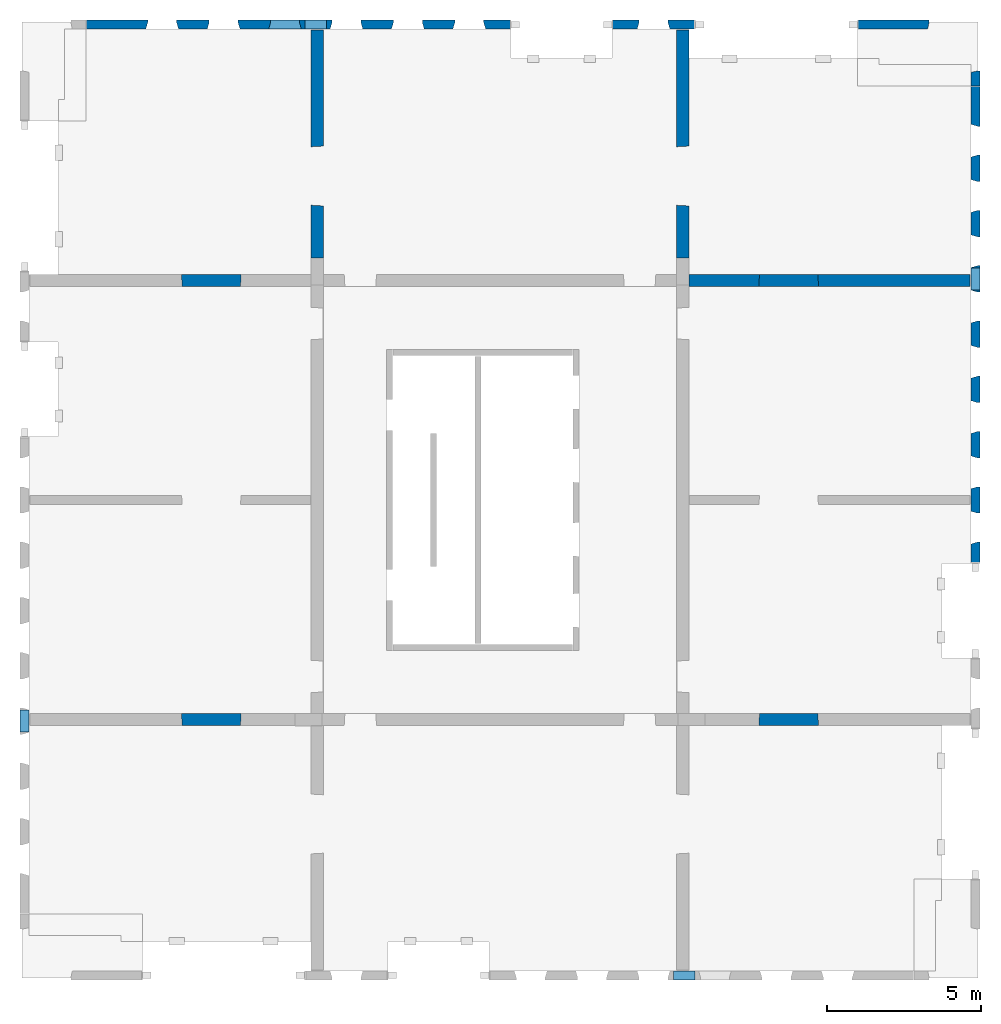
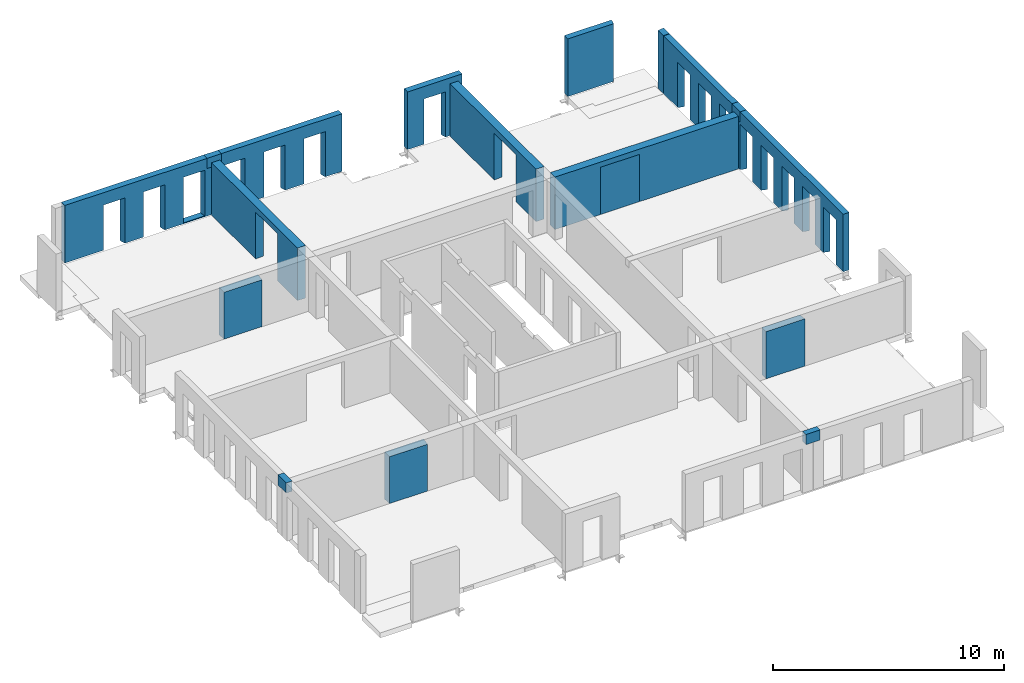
# One storey, part 4 of 4: 18 walls, 24 openings.
"""IFC2X3 building model written with IfcOpenShell, lengths in millimetres."""

from ifc_helpers import new_model, entity, si_unit, converted_unit, derived_unit, direction, frame, frame_2d, origin, place, context, subcontext, project, spatial, rectangle, extrude, faceted_brep, material, layer, layer_set, layer_usage, type_object, element, save


model = new_model("IFC2X3")

# Units and contexts
model_context = context("Model", 3, precision=0.01, world=origin(), true_north=direction((6.12303176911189e-17, 1.0)))
body_context = subcontext(model_context, "Body", "Model", "MODEL_VIEW")
ifc_project = project(units=[si_unit("LENGTHUNIT", "METRE", prefix="MILLI"), si_unit("AREAUNIT", "SQUARE_METRE"), si_unit("VOLUMEUNIT", "CUBIC_METRE"), converted_unit("PLANEANGLEUNIT", "DEGREE", entity("IfcRatioMeasure", 0.0174532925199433), si_unit("PLANEANGLEUNIT", "RADIAN"), dimensions=[0, 0, 0, 0, 0, 0, 0]), si_unit("MASSUNIT", "GRAM", prefix="KILO"), derived_unit("MASSDENSITYUNIT", [(si_unit("MASSUNIT", "GRAM", prefix="KILO"), 1), (si_unit("LENGTHUNIT", "METRE"), -3)]), si_unit("TIMEUNIT", "SECOND"), si_unit("FREQUENCYUNIT", "HERTZ"), si_unit("THERMODYNAMICTEMPERATUREUNIT", "DEGREE_CELSIUS"), derived_unit("THERMALTRANSMITTANCEUNIT", [(si_unit("MASSUNIT", "GRAM", prefix="KILO"), 1), (si_unit("THERMODYNAMICTEMPERATUREUNIT", "KELVIN"), -1), (si_unit("TIMEUNIT", "SECOND"), -3)]), derived_unit("VOLUMETRICFLOWRATEUNIT", [(si_unit("LENGTHUNIT", "METRE"), 3), (si_unit("TIMEUNIT", "SECOND"), -1)]), si_unit("ELECTRICCURRENTUNIT", "AMPERE"), si_unit("ELECTRICVOLTAGEUNIT", "VOLT"), si_unit("POWERUNIT", "WATT"), si_unit("FORCEUNIT", "NEWTON", prefix="KILO"), si_unit("ILLUMINANCEUNIT", "LUX"), si_unit("LUMINOUSFLUXUNIT", "LUMEN"), si_unit("LUMINOUSINTENSITYUNIT", "CANDELA"), derived_unit("USERDEFINED", [(si_unit("MASSUNIT", "GRAM", prefix="KILO"), -1), (si_unit("LENGTHUNIT", "METRE"), -2), (si_unit("TIMEUNIT", "SECOND"), 3), (si_unit("LUMINOUSFLUXUNIT", "LUMEN"), 1)]), derived_unit("LINEARVELOCITYUNIT", [(si_unit("LENGTHUNIT", "METRE"), 1), (si_unit("TIMEUNIT", "SECOND"), -1)]), si_unit("PRESSUREUNIT", "PASCAL"), derived_unit("USERDEFINED", [(si_unit("LENGTHUNIT", "METRE"), -2), (si_unit("MASSUNIT", "GRAM", prefix="KILO"), 1), (si_unit("TIMEUNIT", "SECOND"), -2)])], contexts=[model_context])

# Site, building, storey
site_placement = place(None, origin())
site = spatial("IfcSite", under=ifc_project, at=site_placement, Name="Default", CompositionType="ELEMENT")
building_placement = place(site_placement, origin())
building = spatial("IfcBuilding", under=site, at=building_placement, Name="niet gebruiken", CompositionType="ELEMENT")
storey_placement = place(building_placement, frame((0.0, 0.0, 70020.0)))
storey = spatial("IfcBuildingStorey", under=building, at=storey_placement, Name="22 tweeëntwintigste verdieping", CompositionType="ELEMENT", Elevation=70020.0000000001)

# Walls
ifc_material_1 = material(Name="NLRS_f2_beton ihwg")
ifc_layer_1 = layer(ifc_material_1, 300.0)
ifc_layer_set_1 = layer_set([ifc_layer_1], Name="Basic Wall:NLRS_21.21_WA_beton ihwg d=300_gen")
ifc_layer_usage_1 = layer_usage(ifc_layer_set_1, "AXIS2", "NEGATIVE", 150.0)
wall_type_1 = type_object("IfcWallType", Name="Basic Wall:NLRS_21.21_WA_beton ihwg d=300_gen", PredefinedType="STANDARD", material=ifc_layer_set_1)
wall_1_placement = place(storey_placement, frame((148105.0, 2020.0, 2455.0), z_axis=(0.0, 0.0, 1.0), x_axis=(-1.0, 0.0, 0.0)))
element("IfcWallStandardCase", 1, at=wall_1_placement, inside=storey, type_object=wall_type_1, material=ifc_layer_usage_1, Name="Basic Wall:NLRS_21.21_WA_beton ihwg d=300_gen", ObjectType="Basic Wall:NLRS_21.21_WA_beton ihwg d=300_gen", context=body_context, shape_type="SweptSolid", body=[
    extrude(rectangle(XDim=710.000000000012, YDim=300.0, at=frame_2d((355.000000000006, -1.4210854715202e-14), x_axis=(-1.0, 0.0))), origin(), (0.0, 0.0, 1.0), 535.0),
])
ifc_layer_usage_2 = layer_usage(ifc_layer_set_1, "AXIS2", "NEGATIVE", 150.0)
wall_2_placement = place(storey_placement, frame((135395.0, 32980.0, 2455.0)))
element("IfcWallStandardCase", 2, at=wall_2_placement, inside=storey, type_object=wall_type_1, material=ifc_layer_usage_2, Name="Basic Wall:NLRS_21.21_WA_beton ihwg d=300_gen", ObjectType="Basic Wall:NLRS_21.21_WA_beton ihwg d=300_gen", context=body_context, shape_type="SweptSolid", body=[
    extrude(rectangle(XDim=710.000000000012, YDim=300.000000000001, at=frame_2d((355.000000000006, 0.0), x_axis=(-1.0, 0.0))), origin(), (0.0, 0.0, 1.0), 535.0),
])
ifc_layer_usage_3 = layer_usage(ifc_layer_set_1, "AXIS2", "NEGATIVE", 150.0)
wall_3_placement = place(storey_placement, frame((157230.0, 25055.0, 2455.0), z_axis=(0.0, 0.0, 1.0), x_axis=(0.0, -1.0, 0.0)))
element("IfcWallStandardCase", 3, at=wall_3_placement, inside=storey, type_object=wall_type_1, material=ifc_layer_usage_3, Name="Basic Wall:NLRS_21.21_WA_beton ihwg d=300_gen", ObjectType="Basic Wall:NLRS_21.21_WA_beton ihwg d=300_gen", context=body_context, shape_type="SweptSolid", body=[
    extrude(rectangle(XDim=710.000000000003, YDim=300.000000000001, at=frame_2d((355.000000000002, 9.9475983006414e-13), x_axis=(-1.0, 0.0))), origin(), (0.0, 0.0, 1.0), 535.0),
])
ifc_layer_usage_4 = layer_usage(ifc_layer_set_1, "AXIS2", "NEGATIVE", 150.0)
wall_4_placement = place(storey_placement, frame((126270.0, 9945.0, 2455.0), z_axis=(0.0, 0.0, 1.0), x_axis=(0.0, 1.0, 0.0)))
element("IfcWallStandardCase", 4, at=wall_4_placement, inside=storey, type_object=wall_type_1, material=ifc_layer_usage_4, Name="Basic Wall:NLRS_21.21_WA_beton ihwg d=300_gen", ObjectType="Basic Wall:NLRS_21.21_WA_beton ihwg d=300_gen", context=body_context, shape_type="SweptSolid", body=[
    extrude(rectangle(XDim=710.000000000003, YDim=300.000000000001, at=frame_2d((355.000000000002, 0.0), x_axis=(-1.0, 0.0))), origin(), (0.0, 0.0, 1.0), 535.0),
])

# Wall, opening
ifc_material_2 = material(Name="NLRS_f2_beton prefab")
ifc_layer_2 = layer(ifc_material_2, 400.0)
ifc_layer_set_2 = layer_set([ifc_layer_2], Name="Basic Wall:NLRS_22.21_WA_beton prefab d=400_gen")
ifc_layer_usage_5 = layer_usage(ifc_layer_set_2, "AXIS2", "NEGATIVE", 200.0)
wall_type_2 = type_object("IfcWallType", Name="Basic Wall:NLRS_22.21_WA_beton prefab d=400_gen", PredefinedType="STANDARD", material=ifc_layer_set_2)
wall_5_placement = place(storey_placement, frame((157060.0, 24650.0, -70.0), z_axis=(0.0, 0.0, 1.0), x_axis=(-1.0, 0.0, 0.0)))
wall_5 = element("IfcWallStandardCase", 5, at=wall_5_placement, inside=storey, type_object=wall_type_2, material=ifc_layer_usage_5, Name="Basic Wall:NLRS_22.21_WA_beton prefab d=400_gen", ObjectType="Basic Wall:NLRS_22.21_WA_beton prefab d=400_gen", context=body_context, shape_type="SweptSolid", body=[
    extrude(rectangle(XDim=9160.00000000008, YDim=399.999999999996, at=frame_2d((4580.00000000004, -9.2370555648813e-13), x_axis=(-1.0, 0.0))), origin(), (0.0, 0.0, 1.0), 2770.00000000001),
])
opening_1_placement = place(wall_5_placement, frame((6884.0, 200.0, 0.0)))
element("IfcOpeningElement", 6, at=opening_1_placement, cuts=wall_5, Name="Basic Wall:NLRS_22.21_WA_beton prefab d=400_gen", ObjectType="Opening", context=body_context, shape_type="Brep", body=[
    faceted_brep([(-24.0, -400.0, 2470.0), (-1924.0, -400.0, 2470.0), (-1924.0, -400.0, 0.0), (-24.0, -400.0, 0.0), (0.0, 0.0, 2494.0), (0.0, 0.0, 0.0), (-1948.0, 0.0, 0.0), (-1948.0, 0.0, 2494.0)], [[[0, 1, 2, 3]], [[4, 5, 6, 7]], [[4, 7, 1, 0]], [[7, 6, 2, 1]], [[6, 5, 3, 2]], [[5, 4, 0, 3]]]),
])

ifc_layer_usage_6 = layer_usage(ifc_layer_set_2, "AXIS2", "NEGATIVE", 200.0)
wall_6_placement = place(storey_placement, frame((135800.0, 25380.0, -70.0), z_axis=(0.0, 0.0, 1.0), x_axis=(0.0, 1.0, 0.0)))
wall_6 = element("IfcWallStandardCase", 7, at=wall_6_placement, inside=storey, type_object=wall_type_2, material=ifc_layer_usage_6, Name="Basic Wall:NLRS_22.21_WA_beton prefab d=400_gen", ObjectType="Basic Wall:NLRS_22.21_WA_beton prefab d=400_gen", context=body_context, shape_type="SweptSolid", body=[
    extrude(rectangle(XDim=7430.00000000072, YDim=400.000000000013, at=frame_2d((3715.00000000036, -5.62749846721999e-12), x_axis=(-1.0, 0.0))), origin(), (0.0, 0.0, 1.0), 2770.00000000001),
])
opening_2_placement = place(wall_6_placement, frame((1696.0, 200.0, 0.0)))
element("IfcOpeningElement", 8, at=opening_2_placement, cuts=wall_6, Name="Basic Wall:NLRS_22.21_WA_beton prefab d=400_gen", ObjectType="Opening", context=body_context, shape_type="Brep", body=[
    faceted_brep([(1924.0, 0.0, 2470.0), (1924.0, 0.0, 0.0), (24.0, 0.0, 0.0), (24.0, 0.0, 2470.0), (1948.0, -400.0, 2494.0), (0.0, -400.0, 2494.0), (0.0, -400.0, 0.0), (1948.0, -400.0, 0.0)], [[[0, 1, 2, 3]], [[4, 5, 6, 7]], [[4, 0, 3, 5]], [[5, 3, 2, 6]], [[6, 2, 1, 7]], [[7, 1, 0, 4]]]),
])

ifc_layer_usage_7 = layer_usage(ifc_layer_set_2, "AXIS2", "NEGATIVE", 200.0)
wall_7_placement = place(storey_placement, frame((147700.0, 25380.0, -70.0), z_axis=(0.0, 0.0, 1.0), x_axis=(0.0, 1.0, 0.0)))
wall_7 = element("IfcWallStandardCase", 9, at=wall_7_placement, inside=storey, type_object=wall_type_2, material=ifc_layer_usage_7, Name="Basic Wall:NLRS_22.21_WA_beton prefab d=400_gen", ObjectType="Basic Wall:NLRS_22.21_WA_beton prefab d=400_gen", context=body_context, shape_type="SweptSolid", body=[
    extrude(rectangle(XDim=7429.99999999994, YDim=400.000000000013, at=frame_2d((3714.99999999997, 7.14805992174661e-12), x_axis=(-1.0, 0.0))), origin(), (0.0, 0.0, 1.0), 2770.00000000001),
])
opening_3_placement = place(wall_7_placement, frame((1696.0, 200.0, 0.0)))
element("IfcOpeningElement", 10, at=opening_3_placement, cuts=wall_7, Name="Basic Wall:NLRS_22.21_WA_beton prefab d=400_gen", ObjectType="Opening", context=body_context, shape_type="Brep", body=[
    faceted_brep([(1924.0, 0.0, 2470.0), (1924.0, 0.0, 0.0), (24.0, 0.0, 0.0), (24.0, 0.0, 2470.0), (1948.0, -400.0, 2494.0), (0.0, -400.0, 2494.0), (0.0, -400.0, 0.0), (1948.0, -400.0, 0.0)], [[[0, 1, 2, 3]], [[4, 5, 6, 7]], [[4, 0, 3, 5]], [[5, 3, 2, 6]], [[6, 2, 1, 7]], [[7, 1, 0, 4]]]),
])

ifc_layer_3 = layer(ifc_material_2, 300.0)
ifc_layer_set_3 = layer_set([ifc_layer_3], Name="Basic Wall:NLRS_21.21_WA_beton prefab d=300/320_gen")
ifc_layer_usage_8 = layer_usage(ifc_layer_set_3, "AXIS2", "NEGATIVE", 150.0)
wall_type_3 = type_object("IfcWallType", Name="Basic Wall:NLRS_21.21_WA_beton prefab d=300/320_gen", PredefinedType="STANDARD", material=ifc_layer_set_3)
wall_8_placement = place(storey_placement, frame((145390.0, 32980.0, -50.0)))
wall_8 = element("IfcWallStandardCase", 11, at=wall_8_placement, inside=storey, type_object=wall_type_3, material=ifc_layer_usage_8, Name="Basic Wall:NLRS_21.21_WA_beton prefab d=300/320_gen", ObjectType="Basic Wall:NLRS_21.21_WA_beton prefab d=300/320_gen", context=body_context, shape_type="SweptSolid", body=[
    extrude(rectangle(XDim=2720.00000000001, YDim=300.000000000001, at=frame_2d((1360.0, -4.54747350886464e-13), x_axis=(-1.0, 0.0))), origin(), (0.0, 0.0, 1.0), 3040.0),
])
opening_4_placement = place(wall_8_placement, frame((825.0, -150.0, -20.0)))
element("IfcOpeningElement", 12, at=opening_4_placement, cuts=wall_8, Name="Basic Wall:NLRS_21.21_WA_beton prefab d=300/320_gen", ObjectType="Opening", context=body_context, shape_type="Brep", body=[
    faceted_brep([(0.0, 0.0, 2405.0), (0.0, 0.0, 0.0), (1070.0, 0.0, 0.0), (1070.0, 0.0, 2405.0), (1005.0, 219.0, 2370.0), (65.0, 219.0, 2370.0), (1005.0, 219.0, 0.0), (65.0, 219.0, 0.0), (65.0, 300.0, 0.0), (1005.0, 300.0, 0.0), (65.0, 300.0, 2370.0), (1005.0, 300.0, 2370.0)], [[[0, 1, 2, 3]], [[3, 4, 5, 0]], [[2, 6, 4, 3]], [[1, 7, 8, 9, 6, 2]], [[0, 5, 7, 1]], [[10, 11, 9, 8]], [[10, 5, 4, 11]], [[11, 4, 6, 9]], [[8, 7, 5, 10]]]),
])

# Wall, openings
ifc_layer_usage_9 = layer_usage(ifc_layer_set_3, "AXIS2", "NEGATIVE", 150.0)
wall_9_placement = place(storey_placement, frame((128290.0, 32980.0, -50.0)))
wall_9 = element("IfcWallStandardCase", 13, at=wall_9_placement, inside=storey, type_object=wall_type_3, material=ifc_layer_usage_9, Name="Basic Wall:NLRS_21.21_WA_beton prefab d=300/320_gen", ObjectType="Basic Wall:NLRS_21.21_WA_beton prefab d=300/320_gen", context=body_context, shape_type="SweptSolid", body=[
    extrude(rectangle(XDim=7449.9999999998, YDim=300.000000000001, at=frame_2d((3724.9999999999, 0.0), x_axis=(-1.0, 0.0))), origin(), (0.0, 0.0, 1.0), 3040.0),
])
opening_5_placement = place(wall_9_placement, frame((3925.0, -150.0, -20.0)))
element("IfcOpeningElement", 14, at=opening_5_placement, cuts=wall_9, Name="Basic Wall:NLRS_21.21_WA_beton prefab d=300/320_gen", ObjectType="Opening", context=body_context, shape_type="Brep", body=[
    faceted_brep([(1070.0, 0.0, 2405.0), (0.0, 0.0, 2405.0), (0.0, 0.0, 0.0), (1070.0, 0.0, 0.0), (1005.0, 219.0, 2370.0), (65.0, 219.0, 2370.0), (65.0, 219.0, 0.0), (65.0, 300.0, 0.0), (1005.0, 300.0, 0.0), (1005.0, 219.0, 0.0), (1005.0, 300.0, 2370.0), (65.0, 300.0, 2370.0)], [[[0, 1, 2, 3]], [[1, 0, 4, 5]], [[2, 1, 5, 6]], [[3, 2, 6, 7, 8, 9]], [[0, 3, 9, 4]], [[10, 8, 7, 11]], [[10, 11, 5, 4]], [[11, 7, 6, 5]], [[8, 10, 4, 9]]]),
])
opening_6_placement = place(wall_9_placement, frame((1925.0, -150.0, -20.0)))
element("IfcOpeningElement", 15, at=opening_6_placement, cuts=wall_9, Name="Basic Wall:NLRS_21.21_WA_beton prefab d=300/320_gen", ObjectType="Opening", context=body_context, shape_type="Brep", body=[
    faceted_brep([(1070.0, 0.0, 2405.0), (0.0, 0.0, 2405.0), (0.0, 0.0, 0.0), (1070.0, 0.0, 0.0), (1005.0, 219.0, 2370.0), (65.0, 219.0, 2370.0), (65.0, 219.0, 0.0), (65.0, 300.0, 0.0), (1005.0, 300.0, 0.0), (1005.0, 219.0, 0.0), (1005.0, 300.0, 2370.0), (65.0, 300.0, 2370.0)], [[[0, 1, 2, 3]], [[1, 0, 4, 5]], [[2, 1, 5, 6]], [[3, 2, 6, 7, 8, 9]], [[0, 3, 9, 4]], [[10, 8, 7, 11]], [[10, 11, 5, 4]], [[11, 7, 6, 5]], [[8, 10, 4, 9]]]),
])
opening_7_placement = place(wall_9_placement, frame((5925.0, -150.0, 50.0)))
element("IfcOpeningElement", 16, at=opening_7_placement, cuts=wall_9, Name="Basic Wall:NLRS_21.21_WA_beton prefab d=300/320_gen", ObjectType="Opening", context=body_context, shape_type="Brep", body=[
    faceted_brep([(1070.0, 0.0, 2405.0), (0.0, 0.0, 2405.0), (0.0, 0.0, 0.0), (1070.0, 0.0, 0.0), (1005.0, 219.0, 2370.0), (65.0, 219.0, 2370.0), (65.0, 219.0, 0.0), (65.0, 300.0, 0.0), (1005.0, 300.0, 0.0), (1005.0, 219.0, 0.0), (1005.0, 300.0, 2370.0), (65.0, 300.0, 2370.0)], [[[0, 1, 2, 3]], [[1, 0, 4, 5]], [[2, 1, 5, 6]], [[3, 2, 6, 7, 8, 9]], [[0, 3, 9, 4]], [[10, 8, 7, 11]], [[10, 11, 5, 4]], [[11, 7, 6, 5]], [[8, 10, 4, 9]]]),
])
opening_8_placement = place(wall_9_placement, origin())
element("IfcOpeningElement", 17, at=opening_8_placement, cuts=wall_9, Name="Basic Wall:NLRS_21.21_WA_beton prefab d=300/320_gen", ObjectType="Opening", context=body_context, shape_type="SweptSolid", body=[
    extrude(rectangle(XDim=534.999999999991, YDim=344.999999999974, at=frame_2d((-4.32009983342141e-12, 0.0), x_axis=(1.0, 0.0))), frame((7277.49999999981, 150.0, 2772.50000000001), z_axis=(0.0, -1.0, 0.0), x_axis=(0.0, 0.0, 1.0)), (0.0, 0.0, 1.0), 300.0),
])

ifc_layer_usage_10 = layer_usage(ifc_layer_set_3, "AXIS2", "NEGATIVE", 150.0)
wall_10_placement = place(storey_placement, frame((157230.0, 30960.0, -50.0), z_axis=(0.0, 0.0, 1.0), x_axis=(0.0, -1.0, 0.0)))
wall_10 = element("IfcWallStandardCase", 18, at=wall_10_placement, inside=storey, type_object=wall_type_3, material=ifc_layer_usage_10, Name="Basic Wall:NLRS_21.21_WA_beton prefab d=300/320_gen", ObjectType="Basic Wall:NLRS_21.21_WA_beton prefab d=300/320_gen", context=body_context, shape_type="SweptSolid", body=[
    extrude(rectangle(XDim=6249.99999999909, YDim=300.000000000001, at=frame_2d((3124.99999999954, -8.61177795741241e-12), x_axis=(-1.0, 0.0))), origin(), (0.0, 0.0, 1.0), 3039.99999999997),
])
opening_9_placement = place(wall_10_placement, frame((2295.0, -150.0, -20.0)))
element("IfcOpeningElement", 19, at=opening_9_placement, cuts=wall_10, Name="Basic Wall:NLRS_21.21_WA_beton prefab d=300/320_gen", ObjectType="Opening", context=body_context, shape_type="Brep", body=[
    faceted_brep([(-1070.0, 0.0, 2405.0), (-1070.0, 0.0, 0.0), (0.0, 0.0, 0.0), (0.0, 0.0, 2405.0), (-65.0, 219.0, 2370.0), (-1005.0, 219.0, 2370.0), (-65.0, 219.0, 0.0), (-1005.0, 219.0, 0.0), (-1005.0, 300.0, 0.0), (-65.0, 300.0, 0.0), (-1005.0, 300.0, 2370.0), (-65.0, 300.0, 2370.0)], [[[0, 1, 2, 3]], [[3, 4, 5, 0]], [[2, 6, 4, 3]], [[1, 7, 8, 9, 6, 2]], [[0, 5, 7, 1]], [[10, 11, 9, 8]], [[10, 5, 4, 11]], [[11, 4, 6, 9]], [[8, 7, 5, 10]]]),
])
opening_10_placement = place(wall_10_placement, frame((4095.0, -150.0, -20.0)))
element("IfcOpeningElement", 20, at=opening_10_placement, cuts=wall_10, Name="Basic Wall:NLRS_21.21_WA_beton prefab d=300/320_gen", ObjectType="Opening", context=body_context, shape_type="Brep", body=[
    faceted_brep([(-1070.0, 0.0, 2405.0), (-1070.0, 0.0, 0.0), (0.0, 0.0, 0.0), (0.0, 0.0, 2405.0), (-65.0, 219.0, 2370.0), (-1005.0, 219.0, 2370.0), (-65.0, 219.0, 0.0), (-1005.0, 219.0, 0.0), (-1005.0, 300.0, 0.0), (-65.0, 300.0, 0.0), (-1005.0, 300.0, 2370.0), (-65.0, 300.0, 2370.0)], [[[0, 1, 2, 3]], [[3, 4, 5, 0]], [[2, 6, 4, 3]], [[1, 7, 8, 9, 6, 2]], [[0, 5, 7, 1]], [[10, 11, 9, 8]], [[10, 5, 4, 11]], [[11, 4, 6, 9]], [[8, 7, 5, 10]]]),
])
opening_11_placement = place(wall_10_placement, frame((5895.0, -150.0, -20.0)))
element("IfcOpeningElement", 21, at=opening_11_placement, cuts=wall_10, Name="Basic Wall:NLRS_21.21_WA_beton prefab d=300/320_gen", ObjectType="Opening", context=body_context, shape_type="Brep", body=[
    faceted_brep([(-1070.0, 0.0, 2405.0), (-1070.0, 0.0, 0.0), (0.0, 0.0, 0.0), (0.0, 0.0, 2405.0), (-65.0, 219.0, 2370.0), (-1005.0, 219.0, 2370.0), (-65.0, 219.0, 0.0), (-1005.0, 219.0, 0.0), (-1005.0, 300.0, 0.0), (-65.0, 300.0, 0.0), (-1005.0, 300.0, 2370.0), (-65.0, 300.0, 2370.0)], [[[0, 1, 2, 3]], [[3, 4, 5, 0]], [[2, 6, 4, 3]], [[1, 7, 8, 9, 6, 2]], [[0, 5, 7, 1]], [[10, 11, 9, 8]], [[10, 5, 4, 11]], [[11, 4, 6, 9]], [[8, 7, 5, 10]]]),
])
opening_12_placement = place(wall_10_placement, origin())
element("IfcOpeningElement", 22, at=opening_12_placement, cuts=wall_10, Name="Basic Wall:NLRS_21.21_WA_beton prefab d=300/320_gen", ObjectType="Opening", context=body_context, shape_type="SweptSolid", body=[
    extrude(rectangle(XDim=534.99999999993, YDim=344.999999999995, at=frame_2d((0.0, -2.17426077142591e-12), x_axis=(1.0, 0.0))), frame((6077.49999999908, 150.0, 2772.50000000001), z_axis=(0.0, -1.0, 0.0), x_axis=(0.0, 0.0, 1.0)), (0.0, 0.0, 1.0), 300.0),
])

# Wall, opening
ifc_layer_usage_11 = layer_usage(ifc_layer_set_3, "AXIS2", "NEGATIVE", 150.0)
wall_11_placement = place(storey_placement, frame((153390.0, 32980.0, -50.0)))
wall_11 = element("IfcWallStandardCase", 23, at=wall_11_placement, inside=storey, type_object=wall_type_3, material=ifc_layer_usage_11, Name="Basic Wall:NLRS_21.21_WA_beton prefab d=300/320_gen", ObjectType="Basic Wall:NLRS_21.21_WA_beton prefab d=300/320_gen", context=body_context, shape_type="SweptSolid", body=[
    extrude(rectangle(XDim=2330.00000000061, YDim=300.000000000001, at=frame_2d((1165.00000000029, -1.29318777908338e-12), x_axis=(-1.0, 0.0))), origin(), (0.0, 0.0, 1.0), 3040.0),
])
opening_13_placement = place(wall_11_placement, frame((2265.0, -250.0, 0.0)))
element("IfcOpeningElement", 24, at=opening_13_placement, cuts=wall_11, Name="Basic Wall:NLRS_21.21_WA_beton prefab d=300/320_gen", ObjectType="Opening", context=body_context, shape_type="Brep", body=[
    faceted_brep([(65.0, 0.0, 3040.0), (65.0, 319.0, 3040.0), (0.0, 0.0, 3040.0), (65.0, 0.0, 0.0), (0.0, 0.0, 0.0), (65.0, 319.0, 0.0)], [[[0, 1, 2]], [[3, 4, 5]], [[2, 4, 3, 0]], [[0, 3, 5, 1]], [[1, 5, 4, 2]]]),
])

ifc_layer_usage_12 = layer_usage(ifc_layer_set_3, "AXIS2", "NEGATIVE", 150.0)
wall_12_placement = place(storey_placement, frame((157230.0, 31470.0, -50.0), z_axis=(0.0, 0.0, 1.0), x_axis=(0.0, -1.0, 0.0)))
wall_12 = element("IfcWallStandardCase", 25, at=wall_12_placement, inside=storey, type_object=wall_type_3, material=ifc_layer_usage_12, Name="Basic Wall:NLRS_21.21_WA_beton prefab d=300/320_gen", ObjectType="Basic Wall:NLRS_21.21_WA_beton prefab d=300/320_gen", context=body_context, shape_type="SweptSolid", body=[
    extrude(rectangle(XDim=489.999999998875, YDim=300.000000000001, at=frame_2d((244.999999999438, -7.8159700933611e-13), x_axis=(-1.0, 0.0))), origin(), (0.0, 0.0, 1.0), 3040.0),
])
opening_14_placement = place(wall_12_placement, frame((65.0, -250.0, 0.0)))
element("IfcOpeningElement", 26, at=opening_14_placement, cuts=wall_12, Name="Basic Wall:NLRS_21.21_WA_beton prefab d=300/320_gen", ObjectType="Opening", context=body_context, shape_type="Brep", body=[
    faceted_brep([(-65.0, 0.0, 3040.0), (0.0, 0.0, 3040.0), (-65.0, 319.0, 3040.0), (-65.0, 0.0, 0.0), (-65.0, 319.0, 0.0), (0.0, 0.0, 0.0)], [[[0, 1, 2]], [[3, 4, 5]], [[1, 0, 3, 5]], [[0, 2, 4, 3]], [[2, 1, 5, 4]]]),
])

# Wall, openings
ifc_layer_usage_13 = layer_usage(ifc_layer_set_3, "AXIS2", "NEGATIVE", 150.0)
wall_13_placement = place(storey_placement, frame((157230.0, 24690.0, -50.0), z_axis=(0.0, 0.0, 1.0), x_axis=(0.0, -1.0, 0.0)))
wall_13 = element("IfcWallStandardCase", 27, at=wall_13_placement, inside=storey, type_object=wall_type_3, material=ifc_layer_usage_13, Name="Basic Wall:NLRS_21.21_WA_beton prefab d=300/320_gen", ObjectType="Basic Wall:NLRS_21.21_WA_beton prefab d=300/320_gen", context=body_context, shape_type="SweptSolid", body=[
    extrude(rectangle(XDim=9250.00000000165, YDim=300.000000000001, at=frame_2d((4625.00000000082, -4.43378667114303e-12), x_axis=(-1.0, 0.0))), origin(), (0.0, 0.0, 1.0), 3040.0),
])
opening_15_placement = place(wall_13_placement, frame((8625.0, -150.0, -20.0)))
element("IfcOpeningElement", 28, at=opening_15_placement, cuts=wall_13, Name="Basic Wall:NLRS_21.21_WA_beton prefab d=300/320_gen", ObjectType="Opening", context=body_context, shape_type="Brep", body=[
    faceted_brep([(-1070.0, 0.0, 2405.0), (-1070.0, 0.0, 0.0), (0.0, 0.0, 0.0), (0.0, 0.0, 2405.0), (-65.0, 219.0, 2370.0), (-1005.0, 219.0, 2370.0), (-65.0, 219.0, 0.0), (-1005.0, 219.0, 0.0), (-1005.0, 300.0, 0.0), (-65.0, 300.0, 0.0), (-1005.0, 300.0, 2370.0), (-65.0, 300.0, 2370.0)], [[[0, 1, 2, 3]], [[3, 4, 5, 0]], [[2, 6, 4, 3]], [[1, 7, 8, 9, 6, 2]], [[0, 5, 7, 1]], [[10, 11, 9, 8]], [[10, 5, 4, 11]], [[11, 4, 6, 9]], [[8, 7, 5, 10]]]),
])
opening_16_placement = place(wall_13_placement, frame((5025.0, -150.0, -20.0)))
element("IfcOpeningElement", 29, at=opening_16_placement, cuts=wall_13, Name="Basic Wall:NLRS_21.21_WA_beton prefab d=300/320_gen", ObjectType="Opening", context=body_context, shape_type="Brep", body=[
    faceted_brep([(-1070.0, 0.0, 2405.0), (-1070.0, 0.0, 0.0), (0.0, 0.0, 0.0), (0.0, 0.0, 2405.0), (-65.0, 219.0, 2370.0), (-1005.0, 219.0, 2370.0), (-65.0, 219.0, 0.0), (-1005.0, 219.0, 0.0), (-1005.0, 300.0, 0.0), (-65.0, 300.0, 0.0), (-1005.0, 300.0, 2370.0), (-65.0, 300.0, 2370.0)], [[[0, 1, 2, 3]], [[3, 4, 5, 0]], [[2, 6, 4, 3]], [[1, 7, 8, 9, 6, 2]], [[0, 5, 7, 1]], [[10, 11, 9, 8]], [[10, 5, 4, 11]], [[11, 4, 6, 9]], [[8, 7, 5, 10]]]),
])
opening_17_placement = place(wall_13_placement, frame((3225.0, -150.0, -20.0)))
element("IfcOpeningElement", 30, at=opening_17_placement, cuts=wall_13, Name="Basic Wall:NLRS_21.21_WA_beton prefab d=300/320_gen", ObjectType="Opening", context=body_context, shape_type="Brep", body=[
    faceted_brep([(-1070.0, 0.0, 2405.0), (-1070.0, 0.0, 0.0), (0.0, 0.0, 0.0), (0.0, 0.0, 2405.0), (-65.0, 219.0, 2370.0), (-1005.0, 219.0, 2370.0), (-65.0, 219.0, 0.0), (-1005.0, 219.0, 0.0), (-1005.0, 300.0, 0.0), (-65.0, 300.0, 0.0), (-1005.0, 300.0, 2370.0), (-65.0, 300.0, 2370.0)], [[[0, 1, 2, 3]], [[3, 4, 5, 0]], [[2, 6, 4, 3]], [[1, 7, 8, 9, 6, 2]], [[0, 5, 7, 1]], [[10, 11, 9, 8]], [[10, 5, 4, 11]], [[11, 4, 6, 9]], [[8, 7, 5, 10]]]),
])
opening_18_placement = place(wall_13_placement, frame((6825.0, -150.0, -20.0)))
element("IfcOpeningElement", 31, at=opening_18_placement, cuts=wall_13, Name="Basic Wall:NLRS_21.21_WA_beton prefab d=300/320_gen", ObjectType="Opening", context=body_context, shape_type="Brep", body=[
    faceted_brep([(-1070.0, 0.0, 2405.0), (-1070.0, 0.0, 0.0), (0.0, 0.0, 0.0), (0.0, 0.0, 2405.0), (-65.0, 219.0, 2370.0), (-1005.0, 219.0, 2370.0), (-65.0, 219.0, 0.0), (-1005.0, 219.0, 0.0), (-1005.0, 300.0, 0.0), (-65.0, 300.0, 0.0), (-1005.0, 300.0, 2370.0), (-65.0, 300.0, 2370.0)], [[[0, 1, 2, 3]], [[3, 4, 5, 0]], [[2, 6, 4, 3]], [[1, 7, 8, 9, 6, 2]], [[0, 5, 7, 1]], [[10, 11, 9, 8]], [[10, 5, 4, 11]], [[11, 4, 6, 9]], [[8, 7, 5, 10]]]),
])
opening_19_placement = place(wall_13_placement, frame((1425.0, -150.0, -20.0)))
element("IfcOpeningElement", 32, at=opening_19_placement, cuts=wall_13, Name="Basic Wall:NLRS_21.21_WA_beton prefab d=300/320_gen", ObjectType="Opening", context=body_context, shape_type="Brep", body=[
    faceted_brep([(0.0, 0.0, 2405.0), (-1070.0, 0.0, 2405.0), (-1070.0, 0.0, 0.0), (0.0, 0.0, 0.0), (-65.0, 219.0, 2370.0), (-1005.0, 219.0, 2370.0), (-1005.0, 219.0, 0.0), (-1005.0, 300.0, 0.0), (-65.0, 300.0, 0.0), (-65.0, 219.0, 0.0), (-65.0, 300.0, 2370.0), (-1005.0, 300.0, 2370.0)], [[[0, 1, 2, 3]], [[1, 0, 4, 5]], [[2, 1, 5, 6]], [[3, 2, 6, 7, 8, 9]], [[0, 3, 9, 4]], [[10, 8, 7, 11]], [[10, 11, 5, 4]], [[11, 7, 6, 5]], [[8, 10, 4, 9]]]),
])
opening_20_placement = place(wall_13_placement, origin())
element("IfcOpeningElement", 33, at=opening_20_placement, cuts=wall_13, Name="Basic Wall:NLRS_21.21_WA_beton prefab d=300/320_gen", ObjectType="Opening", context=body_context, shape_type="SweptSolid", body=[
    extrude(rectangle(XDim=534.999999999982, YDim=345.000000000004, at=frame_2d((-2.1600499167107e-12, 0.0), x_axis=(0.0, 1.0))), frame((172.5, 150.0, 2772.5), z_axis=(0.0, -1.0, 0.0), x_axis=(-1.0, 0.0, 0.0)), (0.0, 0.0, 1.0), 300.0),
])

ifc_layer_usage_14 = layer_usage(ifc_layer_set_3, "AXIS2", "NEGATIVE", 150.0)
wall_14_placement = place(storey_placement, frame((135760.0, 32980.0, -50.0)))
wall_14 = element("IfcWallStandardCase", 34, at=wall_14_placement, inside=storey, type_object=wall_type_3, material=ifc_layer_usage_14, Name="Basic Wall:NLRS_21.21_WA_beton prefab d=300/320_gen", ObjectType="Basic Wall:NLRS_21.21_WA_beton prefab d=300/320_gen", context=body_context, shape_type="SweptSolid", body=[
    extrude(rectangle(XDim=6350.00000000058, YDim=300.000000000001, at=frame_2d((3175.00000000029, 0.0), x_axis=(-1.0, 0.0))), origin(), (0.0, 0.0, 1.0), 3040.0),
])
opening_21_placement = place(wall_14_placement, frame((455.0, -150.0, -20.0)))
element("IfcOpeningElement", 35, at=opening_21_placement, cuts=wall_14, Name="Basic Wall:NLRS_21.21_WA_beton prefab d=300/320_gen", ObjectType="Opening", context=body_context, shape_type="Brep", body=[
    faceted_brep([(1070.0, 0.0, 2405.0), (0.0, 0.0, 2405.0), (0.0, 0.0, 0.0), (1070.0, 0.0, 0.0), (1005.0, 219.0, 2370.0), (65.0, 219.0, 2370.0), (65.0, 219.0, 0.0), (65.0, 300.0, 0.0), (1005.0, 300.0, 0.0), (1005.0, 219.0, 0.0), (1005.0, 300.0, 2370.0), (65.0, 300.0, 2370.0)], [[[0, 1, 2, 3]], [[1, 0, 4, 5]], [[2, 1, 5, 6]], [[3, 2, 6, 7, 8, 9]], [[0, 3, 9, 4]], [[10, 8, 7, 11]], [[10, 11, 5, 4]], [[11, 7, 6, 5]], [[8, 10, 4, 9]]]),
])
opening_22_placement = place(wall_14_placement, frame((2455.0, -150.0, -20.0)))
element("IfcOpeningElement", 36, at=opening_22_placement, cuts=wall_14, Name="Basic Wall:NLRS_21.21_WA_beton prefab d=300/320_gen", ObjectType="Opening", context=body_context, shape_type="Brep", body=[
    faceted_brep([(1070.0, 0.0, 2405.0), (0.0, 0.0, 2405.0), (0.0, 0.0, 0.0), (1070.0, 0.0, 0.0), (1005.0, 219.0, 2370.0), (65.0, 219.0, 2370.0), (65.0, 219.0, 0.0), (65.0, 300.0, 0.0), (1005.0, 300.0, 0.0), (1005.0, 219.0, 0.0), (1005.0, 300.0, 2370.0), (65.0, 300.0, 2370.0)], [[[0, 1, 2, 3]], [[1, 0, 4, 5]], [[2, 1, 5, 6]], [[3, 2, 6, 7, 8, 9]], [[0, 3, 9, 4]], [[10, 8, 7, 11]], [[10, 11, 5, 4]], [[11, 7, 6, 5]], [[8, 10, 4, 9]]]),
])
opening_23_placement = place(wall_14_placement, frame((4455.0, -150.0, -20.0)))
element("IfcOpeningElement", 37, at=opening_23_placement, cuts=wall_14, Name="Basic Wall:NLRS_21.21_WA_beton prefab d=300/320_gen", ObjectType="Opening", context=body_context, shape_type="Brep", body=[
    faceted_brep([(1070.0, 0.0, 2405.0), (0.0, 0.0, 2405.0), (0.0, 0.0, 0.0), (1070.0, 0.0, 0.0), (1005.0, 219.0, 2370.0), (65.0, 219.0, 2370.0), (65.0, 219.0, 0.0), (65.0, 300.0, 0.0), (1005.0, 300.0, 0.0), (1005.0, 219.0, 0.0), (1005.0, 300.0, 2370.0), (65.0, 300.0, 2370.0)], [[[0, 1, 2, 3]], [[1, 0, 4, 5]], [[2, 1, 5, 6]], [[3, 2, 6, 7, 8, 9]], [[0, 3, 9, 4]], [[10, 8, 7, 11]], [[10, 11, 5, 4]], [[11, 7, 6, 5]], [[8, 10, 4, 9]]]),
])
opening_24_placement = place(wall_14_placement, origin())
element("IfcOpeningElement", 38, at=opening_24_placement, cuts=wall_14, Name="Basic Wall:NLRS_21.21_WA_beton prefab d=300/320_gen", ObjectType="Opening", context=body_context, shape_type="SweptSolid", body=[
    extrude(rectangle(XDim=534.999999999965, YDim=345.000000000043, at=frame_2d((0.0, 0.0), x_axis=(0.0, 1.0))), frame((172.500000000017, 150.0, 2772.50000000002), z_axis=(0.0, -1.0, 0.0), x_axis=(-1.0, 0.0, 0.0)), (0.0, 0.0, 1.0), 300.0),
])

# Walls
ifc_material_3 = material(Name="NLRS_f2_beton prefab dichtstorten")
wall_type_4 = type_object("IfcWallType", Name="Parametric Wall:NLRS_22.21_WA_beton prefab d=500 1900x2470_gen", PredefinedType="NOTDEFINED", material=ifc_material_3)
for number, where in (
    (39, (131376.0, 10150.0, -70.0)),
    (40, (131376.0, 24450.0, -70.0)),
):
    element("IfcWall", number, at=place(storey_placement, frame(where)), inside=storey, type_object=wall_type_4, material=ifc_material_3, Name="Parametric Wall:NLRS_22.21_WA_beton prefab d=500 1900x2470_gen", ObjectType="Parametric Wall:NLRS_22.21_WA_beton prefab d=500 1900x2470_gen", context=body_context, shape_type="Brep", body=[
        faceted_brep([(1948.0, 400.0, 2494.0), (1948.0, 400.0, 0.0), (0.0, 400.0, 0.0), (0.0, 400.0, 2494.0), (1924.0, 0.0, 2470.0), (24.0, 0.0, 2470.0), (24.0, 0.0, 0.0), (1924.0, 0.0, 0.0)], [[[0, 1, 2, 3]], [[4, 5, 6, 7]], [[4, 7, 1, 0]], [[7, 6, 2, 1]], [[6, 5, 3, 2]], [[5, 4, 0, 3]]]),
    ])
for number, where in (
    (41, (150176.0, 24450.0, -70.0)),
    (42, (150176.0, 10150.0, -70.0)),
):
    element("IfcWall", number, at=place(storey_placement, frame(where)), inside=storey, type_object=wall_type_4, material=ifc_material_3, Name="Parametric Wall:NLRS_22.21_WA_beton prefab d=500 1900x2470_gen", ObjectType="Parametric Wall:NLRS_22.21_WA_beton prefab d=500 1900x2470_gen", context=body_context, shape_type="Brep", body=[
        faceted_brep([(0.0, 0.0, 2494.0), (0.0, 0.0, 0.0), (1948.0, 0.0, 0.0), (1948.0, 0.0, 2494.0), (24.0, 400.0, 2470.0), (1924.0, 400.0, 2470.0), (1924.0, 400.0, 0.0), (24.0, 400.0, 0.0)], [[[0, 1, 2, 3]], [[4, 5, 6, 7]], [[4, 7, 1, 0]], [[7, 6, 2, 1]], [[6, 5, 3, 2]], [[5, 4, 0, 3]]]),
    ])

save(model, "model.ifc")
